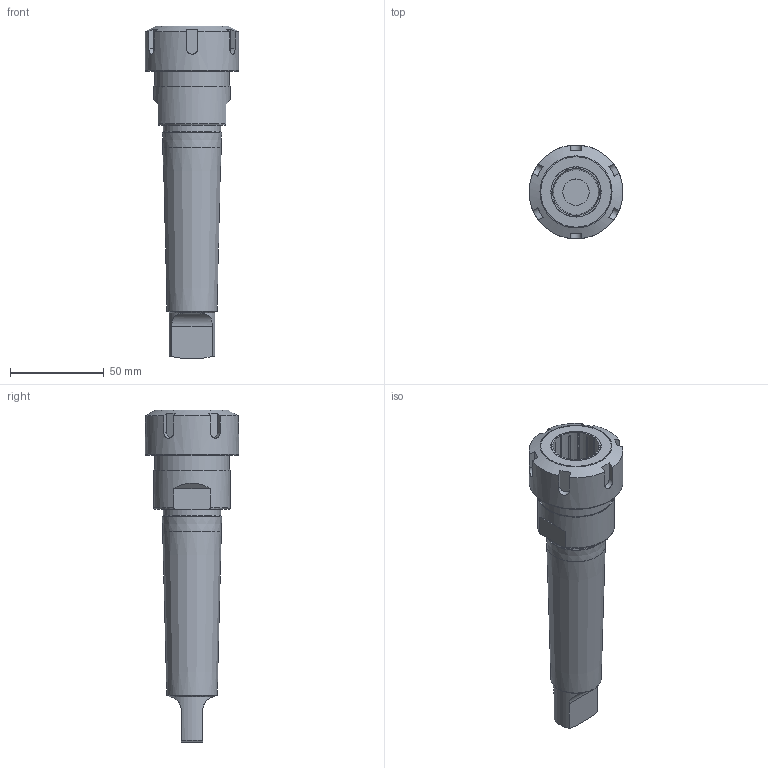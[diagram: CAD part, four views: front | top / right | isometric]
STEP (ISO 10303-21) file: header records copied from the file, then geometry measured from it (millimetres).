
FILE_DESCRIPTION(/* description */ (''),/* implementation_level */ '2;1');
FILE_NAME(/* name */ 'MTA4-ER32.stp',/* time_stamp */ '2025-08-20T11:38:46+03:00',/* author */ ('User'),/* organization */ (''),/* preprocessor_version */ 'ST-DEVELOPER v19.2',/* originating_system */ 'Autodesk Inventor 2024',/* authorisation */ '');
FILE_SCHEMA (('AUTOMOTIVE_DESIGN { 1 0 10303 214 3 1 1 }'));
Length unit declared in the file: millimetre
Products named in the file (4): MTA4-ER32; MT5-22; ER25-M; Цанга ER20 4 mm
Assembly tree (3 placements, depth 2):
  MTA4-ER32
    MT5-22
    ER25-M
    Цанга ER20 4 mm
Bounding box: 50 x 50 x 177 mm (x, y, z)
Volume: 126504.4 mm3; surface area: 39116.7 mm2
Topology: 3 solids, 3 shells, 204 faces, 565 edges, 377 vertices
Faces by surface type: plane 138, cylinder 38, cone 24, torus 4
Full cylindrical faces by diameter (mm): 3 x1, 14 x1, 23.849 x1, 25 x1, 30.7 x1, 31 x1, 31.246 x1, 38.5 x2, 40 x1, 41 x1, 50 x1
Entity records: 6880 total; most frequent: CARTESIAN_POINT 1523, ORIENTED_EDGE 1130, DIRECTION 1076, EDGE_CURVE 565, AXIS2_PLACEMENT_3D 403, VERTEX_POINT 377, LINE 270, VECTOR 270
